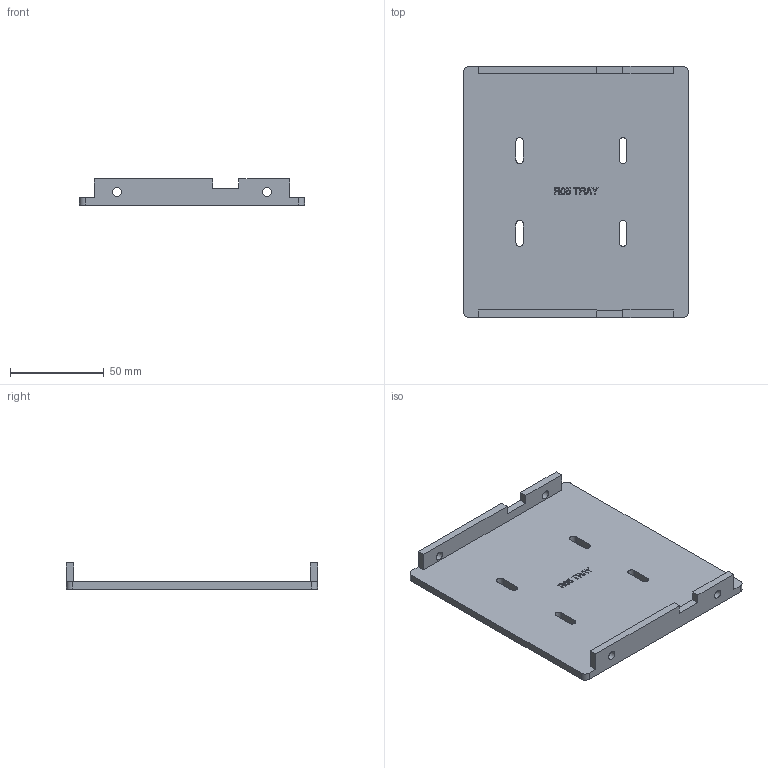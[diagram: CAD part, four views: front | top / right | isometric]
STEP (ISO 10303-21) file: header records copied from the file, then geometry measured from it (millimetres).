
FILE_DESCRIPTION(('Open CASCADE Model'),'2;1');
FILE_NAME('Open CASCADE Shape Model','2026-10-14T15:05:50',('Author'),( 'Open CASCADE'),'Open CASCADE STEP processor 7.8','Open CASCADE 7.8' ,'Unknown');
FILE_SCHEMA(('AUTOMOTIVE_DESIGN { 1 0 10303 214 1 1 1 1 }'));
Length unit declared in the file: millimetre
Products named in the file (1): Open CASCADE STEP translator 7.8 15
Bounding box: 120 x 133.8 x 14 mm (x, y, z)
Volume: 70833 mm3; surface area: 38486.6 mm2
Topology: 1 solids, 1 shells, 186 faces, 519 edges, 346 vertices
Faces by surface type: plane 98, extrusion 72, cylinder 16
Full cylindrical faces by diameter (mm): 4.6 x4
Entity records: 14379 total; most frequent: CARTESIAN_POINT 4971, DIRECTION 1319, ORIENTED_EDGE 1038, PCURVE 1038, DEFINITIONAL_REPRESENTATION 1038, VECTOR 1015, LINE 943, B_SPLINE_CURVE_WITH_KNOTS 622
